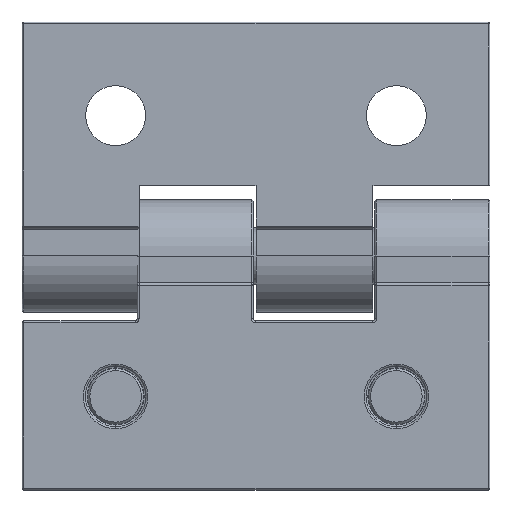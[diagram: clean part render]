
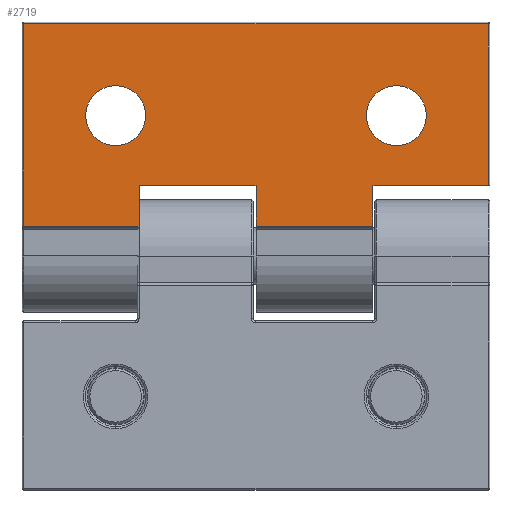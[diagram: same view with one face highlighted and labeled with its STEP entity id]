
A CAD part, front view. The second image highlights one B-rep face of the part: STEP entity #2719.
In plain terms, the highlighted planar face has unit normal (0, -1, 0).
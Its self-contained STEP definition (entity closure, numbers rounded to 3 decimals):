
#9 = EDGE_CURVE ( 'NONE', #1713, #2319, #4704, .T. ) ;
#140 = ORIENTED_EDGE ( 'NONE', *, *, #4270, .T. ) ;
#214 = CARTESIAN_POINT ( 'NONE',  ( -15., 0., -15.2 ) ) ;
#340 = CARTESIAN_POINT ( 'NONE',  ( -12.5, 0., -4.5 ) ) ;
#361 = EDGE_CURVE ( 'NONE', #7441, #979, #424, .T. ) ;
#424 = LINE ( 'NONE', #340, #2173 ) ;
#483 = DIRECTION ( 'NONE',  ( 0., 1., 0. ) ) ;
#630 = FACE_BOUND ( 'NONE', #3527, .T. ) ;
#868 = DIRECTION ( 'NONE',  ( 0., 1., 0. ) ) ;
#923 = DIRECTION ( 'NONE',  ( 1., 0., 0. ) ) ;
#979 = VERTEX_POINT ( 'NONE', #2456 ) ;
#1032 = LINE ( 'NONE', #6043, #5548 ) ;
#1094 = ORIENTED_EDGE ( 'NONE', *, *, #5752, .T. ) ;
#1277 = VECTOR ( 'NONE', #1351, 1000. ) ;
#1351 = DIRECTION ( 'NONE',  ( 0., 0., 1. ) ) ;
#1380 = DIRECTION ( 'NONE',  ( 0., 1., 0. ) ) ;
#1403 = LINE ( 'NONE', #3174, #2615 ) ;
#1591 = EDGE_CURVE ( 'NONE', #4695, #5403, #5940, .T. ) ;
#1713 = VERTEX_POINT ( 'NONE', #2833 ) ;
#1758 = CARTESIAN_POINT ( 'NONE',  ( 0., 0., -0.2 ) ) ;
#1976 = CARTESIAN_POINT ( 'NONE',  ( 0., 0., -4.5 ) ) ;
#2102 = EDGE_CURVE ( 'NONE', #4618, #6149, #4608, .T. ) ;
#2124 = VERTEX_POINT ( 'NONE', #7285 ) ;
#2173 = VECTOR ( 'NONE', #4741, 1000. ) ;
#2204 = CARTESIAN_POINT ( 'NONE',  ( 25., 0., -0.2 ) ) ;
#2245 = CARTESIAN_POINT ( 'NONE',  ( 24.8, 0., -21.8 ) ) ;
#2310 = ORIENTED_EDGE ( 'NONE', *, *, #7104, .T. ) ;
#2319 = VERTEX_POINT ( 'NONE', #214 ) ;
#2397 = AXIS2_PLACEMENT_3D ( 'NONE', #6343, #2834, #6965 ) ;
#2456 = CARTESIAN_POINT ( 'NONE',  ( -24.8, 0., -4.5 ) ) ;
#2522 = DIRECTION ( 'NONE',  ( 0., 0., -1. ) ) ;
#2556 = VECTOR ( 'NONE', #7340, 1000. ) ;
#2588 = EDGE_CURVE ( 'NONE', #3159, #2124, #4701, .T. ) ;
#2591 = EDGE_CURVE ( 'NONE', #2319, #1713, #4532, .T. ) ;
#2615 = VECTOR ( 'NONE', #3773, 1000. ) ;
#2679 = CARTESIAN_POINT ( 'NONE',  ( -24.8, 0., -21.8 ) ) ;
#2719 = ADVANCED_FACE ( 'NONE', ( #630, #6926, #6716 ), #5868, .F. ) ;
#2806 = AXIS2_PLACEMENT_3D ( 'NONE', #4022, #483, #4613 ) ;
#2833 = CARTESIAN_POINT ( 'NONE',  ( -15., 0., -8.8 ) ) ;
#2834 = DIRECTION ( 'NONE',  ( 0., 1., 0. ) ) ;
#2926 = VECTOR ( 'NONE', #4621, 1000. ) ;
#3073 = ORIENTED_EDGE ( 'NONE', *, *, #3176, .T. ) ;
#3109 = CARTESIAN_POINT ( 'NONE',  ( 24.8, 0., 0. ) ) ;
#3127 = EDGE_CURVE ( 'NONE', #2124, #3159, #6917, .T. ) ;
#3159 = VERTEX_POINT ( 'NONE', #5031 ) ;
#3174 = CARTESIAN_POINT ( 'NONE',  ( 25., 0., -0.2 ) ) ;
#3176 = EDGE_CURVE ( 'NONE', #3714, #4618, #6522, .T. ) ;
#3207 = CARTESIAN_POINT ( 'NONE',  ( -12.5, 0., -4.5 ) ) ;
#3242 = CARTESIAN_POINT ( 'NONE',  ( 0., 0., -4.5 ) ) ;
#3424 = ORIENTED_EDGE ( 'NONE', *, *, #361, .T. ) ;
#3461 = CARTESIAN_POINT ( 'NONE',  ( 12.5, 0., -0.2 ) ) ;
#3468 = EDGE_LOOP ( 'NONE', ( #5065, #3424, #1094, #3073, #6945, #2310, #140, #6804, #4698, #7592 ) ) ;
#3527 = EDGE_LOOP ( 'NONE', ( #4831, #5380 ) ) ;
#3534 = VECTOR ( 'NONE', #5741, 1000. ) ;
#3714 = VERTEX_POINT ( 'NONE', #2679 ) ;
#3773 = DIRECTION ( 'NONE',  ( -1., 0., 0. ) ) ;
#3788 = CARTESIAN_POINT ( 'NONE',  ( 24.8, 0., -0.2 ) ) ;
#3963 = ORIENTED_EDGE ( 'NONE', *, *, #3127, .T. ) ;
#4022 = CARTESIAN_POINT ( 'NONE',  ( -15., 0., -12. ) ) ;
#4261 = ORIENTED_EDGE ( 'NONE', *, *, #2588, .T. ) ;
#4270 = EDGE_CURVE ( 'NONE', #4647, #5471, #1032, .T. ) ;
#4314 = LINE ( 'NONE', #3207, #2556 ) ;
#4411 = CARTESIAN_POINT ( 'NONE',  ( 15., 0., -12. ) ) ;
#4532 = CIRCLE ( 'NONE', #2806, 3.2 ) ;
#4608 = LINE ( 'NONE', #3109, #1277 ) ;
#4613 = DIRECTION ( 'NONE',  ( 0., 0., 1. ) ) ;
#4618 = VERTEX_POINT ( 'NONE', #2245 ) ;
#4621 = DIRECTION ( 'NONE',  ( 0., 0., -1. ) ) ;
#4647 = VERTEX_POINT ( 'NONE', #3461 ) ;
#4655 = CARTESIAN_POINT ( 'NONE',  ( -12.5, 0., -0.2 ) ) ;
#4675 = VERTEX_POINT ( 'NONE', #4655 ) ;
#4695 = VERTEX_POINT ( 'NONE', #7623 ) ;
#4698 = ORIENTED_EDGE ( 'NONE', *, *, #1591, .T. ) ;
#4701 = CIRCLE ( 'NONE', #2397, 3.2 ) ;
#4704 = CIRCLE ( 'NONE', #7533, 3.2 ) ;
#4741 = DIRECTION ( 'NONE',  ( -1., 0., 0. ) ) ;
#4831 = ORIENTED_EDGE ( 'NONE', *, *, #9, .T. ) ;
#4924 = CARTESIAN_POINT ( 'NONE',  ( -15., 0., -12. ) ) ;
#4963 = VECTOR ( 'NONE', #923, 1000. ) ;
#5004 = DIRECTION ( 'NONE',  ( 0., 0., 1. ) ) ;
#5031 = CARTESIAN_POINT ( 'NONE',  ( 15., 0., -8.8 ) ) ;
#5055 = EDGE_CURVE ( 'NONE', #5471, #4695, #7014, .T. ) ;
#5065 = ORIENTED_EDGE ( 'NONE', *, *, #6291, .T. ) ;
#5281 = CARTESIAN_POINT ( 'NONE',  ( 25., 0., 0. ) ) ;
#5368 = CARTESIAN_POINT ( 'NONE',  ( -12.5, 0., -4.5 ) ) ;
#5380 = ORIENTED_EDGE ( 'NONE', *, *, #2591, .T. ) ;
#5403 = VERTEX_POINT ( 'NONE', #1758 ) ;
#5471 = VERTEX_POINT ( 'NONE', #7146 ) ;
#5514 = DIRECTION ( 'NONE',  ( 0., 0., 1. ) ) ;
#5548 = VECTOR ( 'NONE', #2522, 1000. ) ;
#5654 = CARTESIAN_POINT ( 'NONE',  ( 25., 0., -21.8 ) ) ;
#5709 = EDGE_LOOP ( 'NONE', ( #4261, #3963 ) ) ;
#5741 = DIRECTION ( 'NONE',  ( -1., 0., 0. ) ) ;
#5752 = EDGE_CURVE ( 'NONE', #979, #3714, #6060, .T. ) ;
#5766 = VECTOR ( 'NONE', #7370, 1000. ) ;
#5868 = PLANE ( 'NONE',  #6335 ) ;
#5940 = LINE ( 'NONE', #3242, #5766 ) ;
#6043 = CARTESIAN_POINT ( 'NONE',  ( 12.5, 0., -4.5 ) ) ;
#6060 = LINE ( 'NONE', #7552, #2926 ) ;
#6149 = VERTEX_POINT ( 'NONE', #3788 ) ;
#6291 = EDGE_CURVE ( 'NONE', #4675, #7441, #4314, .T. ) ;
#6335 = AXIS2_PLACEMENT_3D ( 'NONE', #5281, #7612, #6449 ) ;
#6343 = CARTESIAN_POINT ( 'NONE',  ( 15., 0., -12. ) ) ;
#6435 = AXIS2_PLACEMENT_3D ( 'NONE', #4411, #868, #5004 ) ;
#6449 = DIRECTION ( 'NONE',  ( 0., 0., 1. ) ) ;
#6522 = LINE ( 'NONE', #5654, #4963 ) ;
#6716 = FACE_OUTER_BOUND ( 'NONE', #3468, .T. ) ;
#6804 = ORIENTED_EDGE ( 'NONE', *, *, #5055, .T. ) ;
#6839 = VECTOR ( 'NONE', #7330, 1000. ) ;
#6873 = LINE ( 'NONE', #2204, #3534 ) ;
#6917 = CIRCLE ( 'NONE', #6435, 3.2 ) ;
#6926 = FACE_BOUND ( 'NONE', #5709, .T. ) ;
#6945 = ORIENTED_EDGE ( 'NONE', *, *, #2102, .T. ) ;
#6965 = DIRECTION ( 'NONE',  ( 0., 0., 1. ) ) ;
#6987 = EDGE_CURVE ( 'NONE', #5403, #4675, #6873, .T. ) ;
#7014 = LINE ( 'NONE', #1976, #6839 ) ;
#7104 = EDGE_CURVE ( 'NONE', #6149, #4647, #1403, .T. ) ;
#7146 = CARTESIAN_POINT ( 'NONE',  ( 12.5, 0., -4.5 ) ) ;
#7285 = CARTESIAN_POINT ( 'NONE',  ( 15., 0., -15.2 ) ) ;
#7330 = DIRECTION ( 'NONE',  ( -1., 0., 0. ) ) ;
#7340 = DIRECTION ( 'NONE',  ( 0., 0., -1. ) ) ;
#7370 = DIRECTION ( 'NONE',  ( 0., 0., 1. ) ) ;
#7441 = VERTEX_POINT ( 'NONE', #5368 ) ;
#7533 = AXIS2_PLACEMENT_3D ( 'NONE', #4924, #1380, #5514 ) ;
#7552 = CARTESIAN_POINT ( 'NONE',  ( -24.8, 0., -22. ) ) ;
#7592 = ORIENTED_EDGE ( 'NONE', *, *, #6987, .T. ) ;
#7612 = DIRECTION ( 'NONE',  ( 0., 1., 0. ) ) ;
#7623 = CARTESIAN_POINT ( 'NONE',  ( 0., 0., -4.5 ) ) ;
